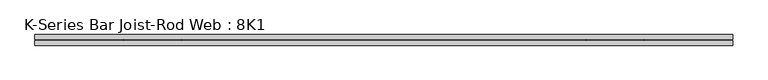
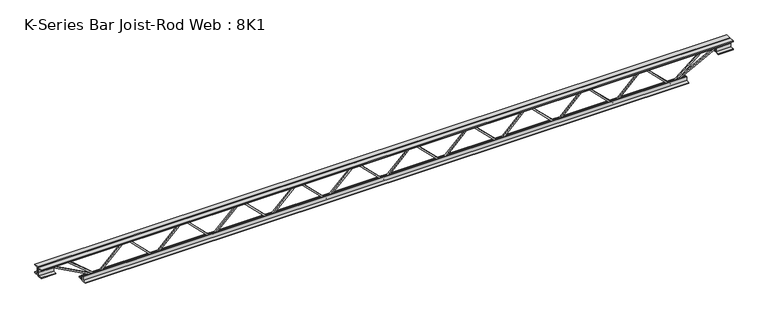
"""IFC4 building model written with IfcOpenShell, lengths in millimetres: beam geometry, K-Series Bar Joist-Rod Web : 8K1."""

from ifc_helpers import new_model, si_unit, frame, origin, place, context, project, spatial, polyline, outline, extrude, source, transform, mapped, element, save


def k_series_bar_joist_rod_web_8k1_7a100831(model_context):
    return source(origin(), model_context, "Body", "SweptSolid", [
        extrude(outline(polyline([(-90.4875, 1190.143393), (-100.0125, 1190.143393), (-100.0125, 1195.2801011), (90.4875, 1387.2873333), (90.4875, 1389.713917), (-100.0125, 1581.7211492), (-100.0125, 1586.8578573), (-90.4875, 1586.8578573), (-90.4875, 1585.6445655), (100.0125, 1393.6373333), (100.0125, 1383.363917), (-90.4875, 1191.3566849), (-90.4875, 1190.143393)])), frame((0.0, -4.7625, 0.0), z_axis=(0.0, 1.0, 0.0), x_axis=(0.0, 0.0, 1.0)), (0.0, 0.0, 1.0), 9.525),
        extrude(outline(polyline([(-90.4875, 793.4289287), (-100.0125, 793.4289287), (-100.0125, 798.5656368), (90.4875, 990.572869), (90.4875, 992.9994527), (-100.0125, 1185.0066849), (-100.0125, 1190.143393), (-90.4875, 1190.143393), (-90.4875, 1188.9301011), (100.0125, 996.922869), (100.0125, 986.6494527), (-90.4875, 794.6422205), (-90.4875, 793.4289287)])), frame((0.0, -4.7625, 0.0), z_axis=(0.0, 1.0, 0.0), x_axis=(0.0, 0.0, 1.0)), (0.0, 0.0, 1.0), 9.525),
        extrude(outline(polyline([(-90.4875, 396.7144643), (-100.0125, 396.7144643), (-100.0125, 401.8511725), (90.4875, 593.8584046), (90.4875, 596.2849884), (-100.0125, 788.2922205), (-100.0125, 793.4289287), (-90.4875, 793.4289287), (-90.4875, 792.2156368), (100.0125, 600.2084046), (100.0125, 589.9349884), (-90.4875, 397.9277562), (-90.4875, 396.7144643)])), frame((0.0, -4.7625, 0.0), z_axis=(0.0, 1.0, 0.0), x_axis=(0.0, 0.0, 1.0)), (0.0, 0.0, 1.0), 9.525),
        extrude(outline(polyline([(-90.4875, 0.0), (-100.0125, 0.0), (-100.0125, 5.1367081), (90.4875, 197.1439403), (90.4875, 199.570524), (-100.0125, 391.5777562), (-100.0125, 396.7144643), (-90.4875, 396.7144643), (-90.4875, 395.5011725), (100.0125, 203.4939403), (100.0125, 193.220524), (-90.4875, 1.2132919), (-90.4875, 0.0)])), frame((0.0, -4.7625, 0.0), z_axis=(0.0, 1.0, 0.0), x_axis=(0.0, 0.0, 1.0)), (0.0, 0.0, 1.0), 9.525),
        extrude(outline(polyline([(-90.4875, -396.7144643), (-100.0125, -396.7144643), (-100.0125, -391.5777562), (90.4875, -199.570524), (90.4875, -197.1439403), (-100.0125, -5.1367081), (-100.0125, 0.0), (-90.4875, 0.0), (-90.4875, -1.2132919), (100.0125, -193.220524), (100.0125, -203.4939403), (-90.4875, -395.5011725), (-90.4875, -396.7144643)])), frame((0.0, -4.7625, 0.0), z_axis=(0.0, 1.0, 0.0), x_axis=(0.0, 0.0, 1.0)), (0.0, 0.0, 1.0), 9.525),
        extrude(outline(polyline([(-90.4875, -793.4289287), (-100.0125, -793.4289287), (-100.0125, -788.2922205), (90.4875, -596.2849884), (90.4875, -593.8584046), (-100.0125, -401.8511725), (-100.0125, -396.7144643), (-90.4875, -396.7144643), (-90.4875, -397.9277562), (100.0125, -589.9349884), (100.0125, -600.2084046), (-90.4875, -792.2156368), (-90.4875, -793.4289287)])), frame((0.0, -4.7625, 0.0), z_axis=(0.0, 1.0, 0.0), x_axis=(0.0, 0.0, 1.0)), (0.0, 0.0, 1.0), 9.525),
        extrude(outline(polyline([(-90.4875, -1190.143393), (-100.0125, -1190.143393), (-100.0125, -1185.0066849), (90.4875, -992.9994527), (90.4875, -990.572869), (-100.0125, -798.5656368), (-100.0125, -793.4289287), (-90.4875, -793.4289287), (-90.4875, -794.6422205), (100.0125, -986.6494527), (100.0125, -996.922869), (-90.4875, -1188.9301011), (-90.4875, -1190.143393)])), frame((0.0, -4.7625, 0.0), z_axis=(0.0, 1.0, 0.0), x_axis=(0.0, 0.0, 1.0)), (0.0, 0.0, 1.0), 9.525),
        extrude(outline(polyline([(-90.4875, -1586.8578573), (-100.0125, -1586.8578573), (-100.0125, -1581.7211492), (90.4875, -1389.713917), (90.4875, -1387.2873333), (-100.0125, -1195.2801011), (-100.0125, -1190.143393), (-90.4875, -1190.143393), (-90.4875, -1191.3566849), (100.0125, -1383.363917), (100.0125, -1393.6373333), (-90.4875, -1585.6445655), (-90.4875, -1586.8578573)])), frame((0.0, -4.7625, 0.0), z_axis=(0.0, 1.0, 0.0), x_axis=(0.0, 0.0, 1.0)), (0.0, 0.0, 1.0), 9.525),
        extrude(outline(polyline([(-90.4875, 1586.8578573), (-100.0125, 1586.8578573), (-100.0125, 1591.9945655), (90.4875, 1784.0017976), (90.4875, 1786.4283814), (-100.0125, 1978.4356135), (-100.0125, 1983.5723217), (-90.4875, 1983.5723217), (-90.4875, 1982.3590298), (100.0125, 1790.3517976), (100.0125, 1780.0783814), (-90.4875, 1588.0711492), (-90.4875, 1586.8578573)])), frame((0.0, -4.7625, 0.0), z_axis=(0.0, 1.0, 0.0), x_axis=(0.0, 0.0, 1.0)), (0.0, 0.0, 1.0), 9.525),
        extrude(outline(polyline([(-90.4875, -1983.5723217), (-100.0125, -1983.5723217), (-100.0125, -1978.4356135), (90.4875, -1786.4283814), (90.4875, -1784.0017976), (-100.0125, -1591.9945655), (-100.0125, -1586.8578573), (-90.4875, -1586.8578573), (-90.4875, -1588.0711492), (100.0125, -1780.0783814), (100.0125, -1790.3517976), (-90.4875, -1982.3590298), (-90.4875, -1983.5723217)])), frame((0.0, -4.7625, 0.0), z_axis=(0.0, 1.0, 0.0), x_axis=(0.0, 0.0, 1.0)), (0.0, 0.0, 1.0), 9.525),
        extrude(outline(polyline([(4.7625, 101.6), (36.5125, 101.6), (36.5125, 95.25), (11.1125, 95.25), (11.1125, 69.85), (4.7625, 69.85), (4.7625, 101.6)])), frame((-2389.9723217, 0.0, 0.0), z_axis=(1.0, 0.0, 0.0), x_axis=(0.0, 1.0, 0.0)), (0.0, 0.0, 1.0), 4779.9446433),
        extrude(outline(polyline([(-4.7625, 101.6), (-4.7625, 69.85), (-11.1125, 69.85), (-11.1125, 95.25), (-36.5125, 95.25), (-36.5125, 101.6), (-4.7625, 101.6)])), frame((-2389.9723217, 0.0, 0.0), z_axis=(1.0, 0.0, 0.0), x_axis=(0.0, 1.0, 0.0)), (0.0, 0.0, 1.0), 4779.9446433),
        extrude(outline(polyline([(-4.7625, 38.1), (-36.5125, 38.1), (-36.5125, 44.45), (-11.1125, 44.45), (-11.1125, 69.85), (-4.7625, 69.85), (-4.7625, 38.1)])), frame((-2389.9723217, 0.0, 0.0), z_axis=(1.0, 0.0, 0.0), x_axis=(0.0, 1.0, 0.0)), (0.0, 0.0, 1.0), 101.6),
        extrude(outline(polyline([(36.5125, 38.1), (4.7625, 38.1), (4.7625, 69.85), (11.1125, 69.85), (11.1125, 44.45), (36.5125, 44.45), (36.5125, 38.1)])), frame((-2389.9723217, 0.0, 0.0), z_axis=(1.0, 0.0, 0.0), x_axis=(0.0, 1.0, 0.0)), (0.0, 0.0, 1.0), 101.6),
        extrude(outline(polyline([(4.7625, 38.1), (4.7625, 69.85), (11.1125, 69.85), (11.1125, 44.45), (36.5125, 44.45), (36.5125, 38.1), (4.7625, 38.1)])), frame((2288.3723217, 0.0, 0.0), z_axis=(1.0, 0.0, 0.0), x_axis=(0.0, 1.0, 0.0)), (0.0, 0.0, 1.0), 101.6),
        extrude(outline(polyline([(-4.7625, 38.1), (-36.5125, 38.1), (-36.5125, 44.45), (-11.1125, 44.45), (-11.1125, 69.85), (-4.7625, 69.85), (-4.7625, 38.1)])), frame((2288.3723217, 0.0, 0.0), z_axis=(1.0, 0.0, 0.0), x_axis=(0.0, 1.0, 0.0)), (0.0, 0.0, 1.0), 101.6),
        extrude(outline(polyline([(4.7625, -101.6), (4.7625, -69.85), (11.1125, -69.85), (11.1125, -95.25), (36.5125, -95.25), (36.5125, -101.6), (4.7625, -101.6)])), frame((-2085.1723217, 0.0, 0.0), z_axis=(1.0, 0.0, 0.0), x_axis=(0.0, 1.0, 0.0)), (0.0, 0.0, 1.0), 4170.3446433),
        extrude(outline(polyline([(-4.7625, -101.6), (-36.5125, -101.6), (-36.5125, -95.25), (-11.1125, -95.25), (-11.1125, -69.85), (-4.7625, -69.85), (-4.7625, -101.6)])), frame((-2085.1723217, 0.0, 0.0), z_axis=(1.0, 0.0, 0.0), x_axis=(0.0, 1.0, 0.0)), (0.0, 0.0, 1.0), 4170.3446433),
        extrude(outline(polyline([(0.0, -9.525), (0.0, 0.0), (346.6425392, 0.0), (346.6425392, -9.525), (0.0, -9.525)])), frame((-2290.6406201, 4.7625, 65.662372), z_axis=(0.47628314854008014, 0.0, 0.8792919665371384), x_axis=(0.8792919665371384, 0.0, -0.47628314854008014)), (0.0, 0.0, 1.0), 9.525),
        extrude(outline(polyline([(0.0, -9.525), (0.0, 0.0), (258.0767358, 0.0), (258.0767358, -9.525), (0.0, -9.525)])), frame((-2184.9762785, 4.7625, 66.1895526), z_axis=(0.6397322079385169, 0.0, 0.7685978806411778), x_axis=(0.7685978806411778, 0.0, -0.6397322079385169)), (0.0, 0.0, 1.0), 9.525),
        extrude(outline(polyline([(0.0, -9.525), (0.0, 0.0), (346.6425392, 0.0), (346.6425392, -9.525), (0.0, -9.525)])), frame((2290.6406201, -4.7625, 65.662372), z_axis=(-0.4762831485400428, 0.0, 0.8792919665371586), x_axis=(-0.8792919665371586, 0.0, -0.4762831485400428)), (0.0, 0.0, 1.0), 9.525),
        extrude(outline(polyline([(0.0, -9.525), (0.0, 0.0), (258.0767358, 0.0), (258.0767358, -9.525), (0.0, -9.525)])), frame((2184.9762785, -4.7625, 66.1895526), z_axis=(-0.6397322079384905, 0.0, 0.7685978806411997), x_axis=(-0.7685978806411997, 0.0, -0.6397322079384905)), (0.0, 0.0, 1.0), 9.525),
    ])


if __name__ == "__main__":
    model = new_model("IFC4")
    model_context = context("Model", 3, world=origin())
    ifc_project = project(units=[si_unit("LENGTHUNIT", "METRE", prefix="MILLI")], contexts=[model_context])
    site = spatial("IfcSite", under=ifc_project)
    building = spatial("IfcBuilding", under=site)
    placement = place(None, origin())
    k_series_bar_joist_rod_web_8k1_shape = k_series_bar_joist_rod_web_8k1_7a100831(model_context)
    element("IfcBeam", 1, ObjectType="K-Series Bar Joist-Rod Web : 8K1", at=placement, inside=building, context=model_context, shape_type="MappedRepresentation", body=[
        mapped(k_series_bar_joist_rod_web_8k1_shape, transform((0.0, 0.0, 0.0), x_axis=(1.0, 0.0, 0.0), y_axis=(0.0, 1.0, 0.0), z_axis=(0.0, 0.0, 1.0))),
    ])
    save(model, "model.ifc")
